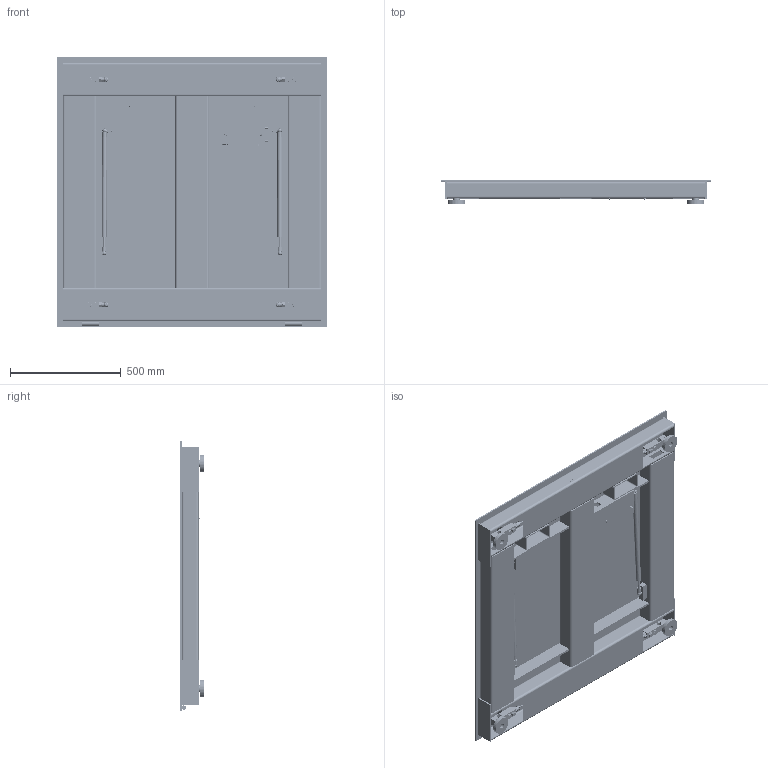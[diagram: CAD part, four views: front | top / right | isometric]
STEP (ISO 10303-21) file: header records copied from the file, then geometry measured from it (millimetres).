
FILE_DESCRIPTION (( 'STEP AP214' ), '1' );
FILE_NAME ('HIFSLD-4848 Series.STEP', '2019-10-11T15:12:15', ( '' ), ( '' ), 'SwSTEP 2.0', 'SolidWorks 2017', '' );
FILE_SCHEMA (( 'AUTOMOTIVE_DESIGN' ));
Length unit declared in the file: inch
Products named in the file (66): 100-94341; smkds_1-9-3.5; 400-110006; Mini Cable Adapter; Cable Adapter Nut; 0508-0918-001_ENCLOSURE ASSY; 2814-0095-0; 100-80915; HI SBHF14-2.5K; 400-110004; HP-00003_SS; 6007-0097-0; Gland; HI 6011 ASSEMBLY; 0530-0852-01-0; Adapter Nut; 5504-0012 Rubber; PEM BSO4-632-10; Pin 4-6362E-1 Rubber Foot; 400-110002; 93625A150_93625A150; 0530-0825-01-0; 0508-0918-002_PLATE; 5504-0012 threaded insert; Cable Adapter; 0524-0038-01-0; 2817-0188; HM-SS-2.5K_SS; Phoenix_1751141; 0508-0918-003_COVER_Default<As Machined>; Mini Cable; 0534-0575-01-0 PWB; 5504-0012; 0508-0918-01_ENCLOSURE ASSY; 5504-0012 foot insert; Hex Bolt - 1_4 - 20_0.75 SS; ORING; 100-94338; 200-80107; blind standoff_pmm_PEM BSO4-M3-6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
Assembly tree (127 placements, depth 6):
  HIFSLD-4848 Series
    100-90514
    100-94342_Default_As Machined_
    100-89184_Default_As Machined_
    100-89185_Default_As Machined_  x3
    100-80912  x4
    100-80498  x2
    100-80915  x2
    400-110006  x4
    900-10070  x2
    200-80107  x2
      400-110002
      400-110004
    HM-SS-2.5K_SS  x4
      HP-00007_SS
      HI SBHF14-2.5K
        Mini Cable Adapter
          Mini Cable
          Gland
          Cable Adapter Nut
            Adapter Nut
          Cable Adapter
        HI SBHF14-2.5K
      Hex Bolt - 1_2 - 20_2.25 SS
      5504-0012
        Pin 4-6362E-1 Rubber Foot
        93625A150_93625A150
        91800A236_91800A236
        ORING
        5504-0012 foot insert
        5504-0012 Rubber
        5504-0012 threaded insert
      HP-00003_SS
    100-89193  x3
    100-94341
    100-80490_Default_As Machined_  x2
    100-80504_Default_As Machined_  x2
    100-90516_Diamond Plate  x2
    Socket Countersunk Head Cap Screw - 1_4 - 20_0.75 SS  x2
    100-94338
    Hex Bolt - 1_4 - 20_0.75 SS  x2
    Hex Nut - 1_4 - 20_SS  x2
    HI 6011 ASSEMBLY
      0508-0918-01_ENCLOSURE ASSY
        0508-0918-001_ENCLOSURE ASSY
          0508-0918-001_ENCLOSURE
          blind standoff_pmm_PEM BSO4-M3-6  x8
          PEM BSO4-632-10  x4
        0508-0918-003_COVER_Default<As Machined>
        0508-0918-002_PLATE
      0524-0038-01-0
      0535-0575-XX-0 PWA
        0534-0575-01-0 PWB
        Phoenix_1751141
          smkds_1-7-3.5
        smkds_1-7-3.5  x3
        Phoenix_1751167
          smkds_1-9-3.5
      2817-0188  x4
        flat washer type a selected narrow_ai_Selected Narrow FW 0.156
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Bounding box: 1219.2 x 106.08 x 1219.2 mm (x, y, z)
Volume: 23380091 mm3; surface area: 8464067.9 mm2
Topology: 681 solids, 685 shells, 19525 faces, 50188 edges, 32797 vertices
Faces by surface type: plane 8707, bspline 6101, cylinder 2622, cone 1835, torus 220, sphere 40
Entity records: 697537 total; most frequent: CARTESIAN_POINT 223668, ORIENTED_EDGE 73594, DIRECTION 42486, EDGE_CURVE 36797, VERTEX_POINT 24349, VECTOR 22368, LINE 22368, EDGE_LOOP 14994
